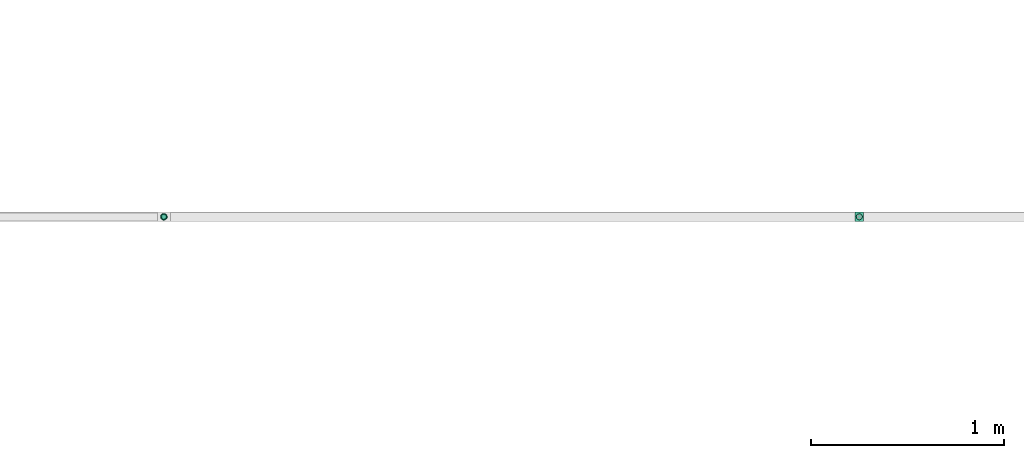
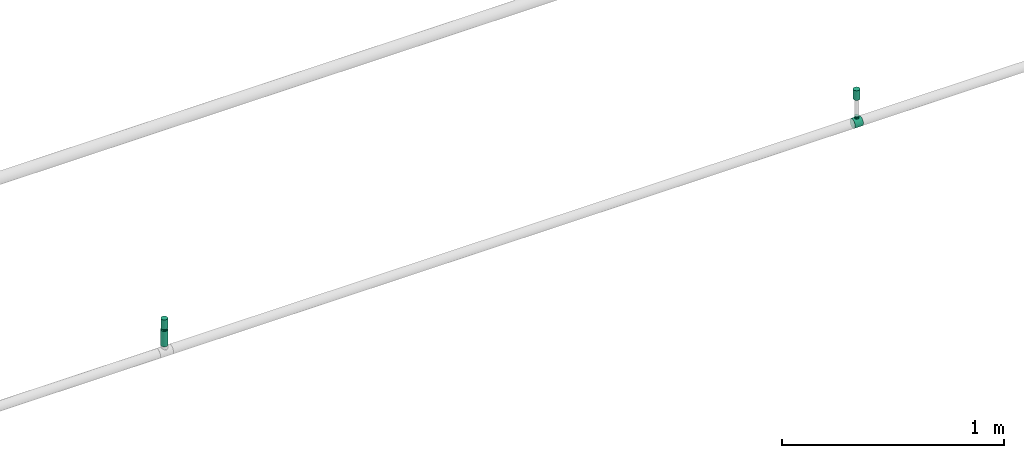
# One storey, part 10 of 14: 2 flow fittings, 2 flow terminals, 1 flow segment.
"""IFC2X3 building model written with IfcOpenShell, lengths in millimetres."""

from ifc_helpers import new_model, entity, si_unit, converted_unit, derived_unit, direction, frame, origin_with_axes, origin_2d_with_axis, place, context, subcontext, project, spatial, hollow_circle, extrude, open_shell, surface_model, source, transform, mapped, type_object, element, save


model = new_model("IFC2X3")

# Units and contexts
model_context = context("Model", 3, precision=0.01, world=frame((0.0, 4.29681676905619e-09, 0.0)), true_north=direction((4.01073788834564e-13, 1.0)))
plan_context = context("Plan", 3, precision=0.01, world=frame((0.0, 4.29681676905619e-09, 0.0)), true_north=direction((4.01073788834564e-13, 1.0)))
body_context = subcontext(model_context, "Body", "Model", "MODEL_VIEW")
ifc_project = project(units=[converted_unit("PLANEANGLEUNIT", "DEGREE", entity("IfcPositiveLengthMeasure", 0.0174532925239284), si_unit("PLANEANGLEUNIT", "RADIAN"), dimensions=[0, 0, 0, 0, 0, 0, 0]), si_unit("AREAUNIT", "SQUARE_METRE"), si_unit("LENGTHUNIT", "METRE", prefix="MILLI"), si_unit("MASSUNIT", "GRAM", prefix="KILO"), si_unit("POWERUNIT", "WATT"), si_unit("PRESSUREUNIT", "PASCAL"), si_unit("FORCEUNIT", "NEWTON", prefix="KILO"), si_unit("ELECTRICVOLTAGEUNIT", "VOLT"), si_unit("ELECTRICCURRENTUNIT", "AMPERE"), si_unit("THERMODYNAMICTEMPERATUREUNIT", "DEGREE_CELSIUS"), si_unit("TIMEUNIT", "SECOND"), si_unit("VOLUMEUNIT", "CUBIC_METRE"), derived_unit("LINEARVELOCITYUNIT", [(si_unit("LENGTHUNIT", "METRE"), 1), (si_unit("TIMEUNIT", "SECOND"), -1)]), derived_unit("VOLUMETRICFLOWRATEUNIT", [(si_unit("VOLUMEUNIT", "CUBIC_METRE"), 1), (si_unit("TIMEUNIT", "SECOND"), -1)]), derived_unit("THERMALTRANSMITTANCEUNIT", [(si_unit("POWERUNIT", "WATT"), 1), (si_unit("THERMODYNAMICTEMPERATUREUNIT", "KELVIN"), -1), (si_unit("AREAUNIT", "SQUARE_METRE"), -1)]), derived_unit("SOUNDPRESSUREUNIT", [(si_unit("PRESSUREUNIT", "PASCAL"), 1)])], contexts=[model_context, plan_context])

# Site, building, storey
site_placement = place(None, frame((0.0, -4.29681676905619e-09, 0.0), z_axis=(0.0, 0.0, 1.0), x_axis=(1.0, 0.0, 0.0)))
site = spatial("IfcSite", under=ifc_project, at=site_placement, CompositionType="ELEMENT")
building_placement = place(site_placement, frame((0.0, 4.29681676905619e-09, 0.0), z_axis=(0.0, 0.0, 1.0), x_axis=(1.0, 0.0, 0.0)))
building = spatial("IfcBuilding", under=site, at=building_placement, Name="mc-building", CompositionType="ELEMENT")
storey_placement = place(building_placement, frame((0.0, 0.0, 204000.0), z_axis=(0.0, 0.0, 1.0), x_axis=(1.0, 0.0, 0.0)))
storey = spatial("IfcBuildingStorey", under=building, at=storey_placement, Name="Nivå D", CompositionType="ELEMENT", Elevation=204000.0)

# Flow fittings
pipe_fitting_type_1 = type_object("IfcPipeFittingType", Name="magi_pipe_fe_reducer_centric_short_NOR", PredefinedType="TRANSITION")
shared_shape_1 = source(origin_with_axes(), body_context, "Body", "SurfaceModel", [
    surface_model("IfcShellBasedSurfaceModel", [(14.4, 5.35, -9.26647), (14.4, 0.0, -10.7), (14.4, 2.76936, -10.33541), (14.4, 10.33541, -2.76936), (14.4, 7.56604, -7.56604), (14.4, -5.35, -9.26647), (14.4, 9.26647, -5.35), (14.4, -9.26647, 5.35), (14.4, -2.76936, -10.33541), (14.4, -7.56604, -7.56604), (14.4, -10.33541, -2.76936), (14.4, -9.26647, -5.35), (14.4, 10.33541, 2.76936), (14.4, 10.7, 0.0), (14.4, 9.26647, 5.35), (14.4, 7.56604, 7.56604), (14.4, 2.76936, 10.33541), (14.4, 0.0, 10.7), (14.4, 5.35, 9.26647), (14.4, -10.33541, 2.76936), (14.4, -10.7, 0.0), (14.4, -7.56604, 7.56604), (14.4, -2.76936, 10.33541), (14.4, -5.35, 9.26647), (12.4, 0.0, 10.7), (12.4, 2.76936, 10.33541), (12.4, 5.35, 9.26647), (12.4, 7.56604, 7.56604), (12.4, 9.26647, 5.35), (12.4, 10.33541, 2.76936), (12.4, -10.33541, 2.76936), (12.4, 10.33541, -2.76936), (12.4, -2.76936, 10.33541), (12.4, -7.56604, 7.56604), (12.4, -5.35, 9.26647), (12.4, -9.26647, 5.35), (12.4, -10.33541, -2.76936), (12.4, -10.7, 0.0), (12.4, 2.76936, -10.33541), (12.4, 9.26647, -5.35), (12.4, 7.56604, -7.56604), (12.4, 5.35, -9.26647), (12.4, -7.56604, -7.56604), (12.4, -9.26647, -5.35), (12.4, -5.35, -9.26647), (12.4, 0.0, -10.7), (12.4, -2.76936, -10.33541), (12.4, 10.7, 0.0), (-2.0, 11.9501, 11.9501), (-2.0, 0.0, 16.9), (-2.0, 4.37404, 16.32415), (-2.0, 8.45, 14.63583), (-2.0, 14.63583, 8.45), (-2.0, 16.32415, 4.37404), (-2.0, -16.32415, 4.37404), (-2.0, -8.45, 14.63583), (-2.0, -14.63583, 8.45), (-2.0, -11.9501, 11.9501), (-2.0, -4.37404, 16.32415), (-2.0, -16.32415, -4.37404), (-2.0, -16.9, 0.0), (-2.0, -8.45, -14.63583), (-2.0, 16.32415, -4.37404), (-2.0, 11.9501, -11.9501), (-2.0, 14.63583, -8.45), (-2.0, 8.45, -14.63583), (-2.0, 4.37404, -16.32415), (-2.0, 0.0, -16.9), (-2.0, -11.9501, -11.9501), (-2.0, -14.63583, -8.45), (-2.0, -4.37404, -16.32415), (-2.0, 16.9, 0.0), (0.0, 4.37404, -16.32415), (0.0, 8.45, -14.63583), (0.0, 11.9501, -11.9501), (0.0, 0.0, -16.9), (0.0, 16.32415, -4.37404), (0.0, 16.32415, 4.37404), (0.0, 14.63583, -8.45), (0.0, -8.45, -14.63583), (0.0, -4.37404, -16.32415), (0.0, -11.9501, -11.9501), (0.0, -16.32415, -4.37404), (0.0, -14.63583, -8.45), (0.0, -16.32415, 4.37404), (0.0, 16.9, 0.0), (0.0, 14.63583, 8.45), (0.0, 11.9501, 11.9501), (0.0, 4.37404, 16.32415), (0.0, 8.45, 14.63583), (0.0, 0.0, 16.9), (0.0, -14.63583, 8.45), (0.0, -16.9, 0.0), (0.0, -8.45, 14.63583), (0.0, -11.9501, 11.9501), (0.0, -4.37404, 16.32415), (12.4, 9.3625, -2.31662), (0.0, 14.42505, -5.97505), (0.0, 15.66253, -2.98753), (12.4, -6.6875, -6.94985), (0.0, -13.18758, -8.96258), (0.0, 2.98753, -15.66253), (12.4, 0.0, -9.26647), (12.4, 6.6875, -6.94985), (0.0, 8.96258, -13.18758), (12.4, -9.3625, -2.31662), (0.0, -15.66253, -2.98753), (0.0, -14.42505, -5.97505), (0.0, 5.97505, -14.42505), (0.0, -2.98753, -15.66253), (0.0, -8.96258, -13.18758), (0.0, 13.18758, -8.96258), (12.4, 8.025, -4.63324), (12.4, -2.675, -9.26647), (12.4, 2.675, -9.26647), (0.0, -5.97505, -14.42505), (12.4, -8.025, -4.63324), (12.4, -9.3625, 2.31662), (0.0, -14.42505, 5.97505), (0.0, -15.66253, 2.98753), (12.4, 6.6875, 6.94985), (0.0, 13.18758, 8.96258), (0.0, -2.98753, 15.66253), (12.4, 0.0, 9.26647), (12.4, -6.6875, 6.94985), (0.0, -8.96258, 13.18758), (12.4, 9.3625, 2.31662), (0.0, 15.66253, 2.98753), (0.0, 14.42505, 5.97505), (0.0, -5.97505, 14.42505), (0.0, 2.98753, 15.66253), (0.0, 8.96258, 13.18758), (0.0, -13.18758, 8.96258), (12.4, -8.025, 4.63324), (12.4, 2.675, 9.26647), (12.4, -2.675, 9.26647), (0.0, 5.97505, 14.42505), (12.4, 8.025, 4.63324)], [open_shell([[[0, 1, 2]], [[3, 0, 4]], [[5, 0, 3]], [[3, 4, 6]], [[7, 5, 3]], [[1, 5, 8]], [[1, 0, 5]], [[9, 10, 11]], [[10, 9, 5]], [[5, 7, 10]], [[12, 3, 13]], [[12, 14, 15]], [[3, 15, 7]], [[16, 17, 15]], [[16, 15, 18]], [[7, 15, 17]], [[10, 19, 20]], [[7, 19, 10]], [[21, 22, 23]], [[22, 21, 7]], [[17, 22, 7]], [[3, 12, 15]], [[24, 25, 26]], [[24, 26, 27]], [[27, 28, 29]], [[24, 27, 30]], [[31, 30, 27]], [[32, 33, 34]], [[33, 32, 30]], [[33, 30, 35]], [[32, 24, 30]], [[30, 36, 37]], [[31, 27, 29]], [[36, 30, 31]], [[38, 31, 39]], [[40, 41, 38]], [[40, 38, 39]], [[36, 31, 38]], [[36, 42, 43]], [[42, 36, 44]], [[44, 45, 46]], [[44, 36, 38]], [[38, 45, 44]], [[31, 29, 47]], [[36, 10, 37]], [[43, 11, 36]], [[5, 42, 44]], [[43, 42, 9]], [[8, 44, 46]], [[36, 11, 10]], [[10, 20, 37]], [[8, 5, 44]], [[9, 42, 5]], [[9, 11, 43]], [[1, 8, 46]], [[46, 45, 1]], [[38, 2, 45]], [[41, 0, 38]], [[6, 40, 39]], [[41, 40, 4]], [[3, 39, 31]], [[41, 4, 0]], [[0, 2, 38]], [[13, 3, 31]], [[6, 39, 3]], [[6, 4, 40]], [[47, 13, 31]], [[45, 2, 1]], [[29, 12, 47]], [[28, 14, 29]], [[18, 27, 26]], [[28, 27, 15]], [[16, 26, 25]], [[29, 14, 12]], [[12, 13, 47]], [[16, 18, 26]], [[15, 27, 18]], [[15, 14, 28]], [[17, 16, 25]], [[25, 24, 17]], [[32, 22, 24]], [[34, 23, 32]], [[7, 33, 35]], [[34, 33, 21]], [[19, 35, 30]], [[34, 21, 23]], [[23, 22, 32]], [[20, 19, 30]], [[7, 35, 19]], [[7, 21, 33]], [[37, 20, 30]], [[24, 22, 17]], [[48, 49, 50]], [[48, 50, 51]], [[48, 52, 53]], [[48, 53, 49]], [[49, 53, 54]], [[55, 56, 57]], [[55, 58, 49]], [[56, 55, 49]], [[49, 54, 56]], [[54, 59, 60]], [[54, 53, 61]], [[53, 62, 63]], [[63, 62, 64]], [[63, 65, 66]], [[61, 53, 63]], [[67, 63, 66]], [[59, 68, 69]], [[68, 59, 61]], [[61, 67, 70]], [[59, 54, 61]], [[63, 67, 61]], [[53, 71, 62]], [[72, 73, 74]], [[75, 72, 74]], [[74, 76, 77]], [[76, 74, 78]], [[74, 77, 79]], [[75, 79, 80]], [[75, 74, 79]], [[81, 82, 83]], [[82, 81, 79]], [[79, 84, 82]], [[77, 76, 85]], [[77, 86, 87]], [[77, 87, 88]], [[88, 84, 79]], [[88, 87, 89]], [[84, 88, 90]], [[90, 91, 84]], [[92, 82, 84]], [[91, 93, 94]], [[91, 90, 93]], [[93, 90, 95]], [[79, 77, 88]], [[59, 82, 60]], [[69, 83, 59]], [[79, 68, 61]], [[69, 68, 81]], [[80, 61, 70]], [[59, 83, 82]], [[82, 92, 60]], [[80, 79, 61]], [[81, 68, 79]], [[81, 83, 69]], [[75, 80, 70]], [[70, 67, 75]], [[66, 72, 67]], [[65, 73, 66]], [[78, 63, 64]], [[65, 63, 74]], [[76, 64, 62]], [[65, 74, 73]], [[73, 72, 66]], [[85, 76, 62]], [[78, 64, 76]], [[78, 74, 63]], [[71, 85, 62]], [[67, 72, 75]], [[53, 77, 71]], [[52, 86, 53]], [[89, 48, 51]], [[52, 48, 87]], [[88, 51, 50]], [[53, 86, 77]], [[77, 85, 71]], [[88, 89, 51]], [[87, 48, 89]], [[87, 86, 52]], [[90, 88, 50]], [[50, 49, 90]], [[58, 95, 49]], [[55, 93, 58]], [[91, 57, 56]], [[55, 57, 94]], [[84, 56, 54]], [[55, 94, 93]], [[93, 95, 58]], [[92, 84, 54]], [[91, 56, 84]], [[91, 94, 57]], [[60, 92, 54]], [[49, 95, 90]], [[26, 34, 47]], [[47, 34, 44]], [[44, 41, 47]], [[44, 34, 37]], [[90, 87, 92]], [[92, 94, 90]], [[87, 74, 92]], [[75, 92, 74]], [[81, 92, 75]], [[74, 87, 85]], [[96, 97, 98]], [[81, 99, 100]], [[101, 102, 75]], [[98, 85, 47]], [[74, 103, 104]], [[104, 103, 41]], [[105, 106, 107]], [[41, 108, 104]], [[102, 109, 75]], [[110, 99, 81]], [[47, 96, 98]], [[103, 111, 112]], [[109, 102, 113]], [[37, 92, 106]], [[102, 101, 114]], [[110, 115, 44]], [[96, 112, 97]], [[107, 116, 105]], [[37, 106, 105]], [[113, 115, 109]], [[44, 115, 113]], [[116, 107, 100]], [[108, 41, 114]], [[111, 103, 74]], [[111, 97, 112]], [[99, 110, 44]], [[116, 100, 99]], [[101, 108, 114]], [[117, 118, 119]], [[87, 120, 121]], [[122, 123, 90]], [[119, 92, 37]], [[94, 124, 125]], [[125, 124, 34]], [[126, 127, 128]], [[34, 129, 125]], [[123, 130, 90]], [[131, 120, 87]], [[37, 117, 119]], [[124, 132, 133]], [[130, 123, 134]], [[47, 85, 127]], [[123, 122, 135]], [[131, 136, 26]], [[117, 133, 118]], [[128, 137, 126]], [[47, 127, 126]], [[134, 136, 130]], [[26, 136, 134]], [[137, 128, 121]], [[129, 34, 135]], [[132, 124, 94]], [[132, 118, 133]], [[120, 131, 26]], [[137, 121, 120]], [[122, 129, 135]]])]),
])
flow_fitting_1_placement = place(storey_placement, frame((601000.0, 696802.46783, 6260.64799999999), z_axis=(0.0, 1.0, 0.0), x_axis=(0.0, 0.0, 1.0)))
element("IfcFlowFitting", 1, at=flow_fitting_1_placement, inside=storey, type_object=pipe_fitting_type_1, Name="magi_pipe_fe_reducer_centric_short_NOR", context=body_context, shape_type="MappedRepresentation", body=[
    mapped(shared_shape_1, transform((0.0, 0.0, 0.0), scale=1.0)),
])
pipe_fitting_type_2 = type_object("IfcPipeFittingType", Name="magi_pipe_fe_tee_centric_90_NOR", PredefinedType="JUNCTION")
shared_shape_2 = source(origin_with_axes(), body_context, "Body", "SurfaceModel", [
    surface_model("IfcShellBasedSurfaceModel", [(-21.4, 0.0, -24.2), (-21.4, -6.26342, -23.37541), (-21.4, 6.26342, -23.37541), (-21.4, 12.1, -20.95781), (-21.4, 20.95781, -12.1), (-21.4, -24.2, 0.0), (-21.4, 17.11198, -17.11198), (-21.4, -23.37541, 6.26342), (-21.4, -12.1, -20.95781), (-21.4, -17.11198, -17.11198), (-21.4, -23.37541, -6.26342), (-21.4, -20.95781, -12.1), (-21.4, 23.37541, -6.26342), (-21.4, 20.95781, 12.1), (-21.4, 23.37541, 6.26342), (-21.4, 24.2, 0.0), (-21.4, 12.1, 20.95781), (-21.4, -17.11198, 17.11198), (-21.4, 17.11198, 17.11198), (-21.4, 6.26342, 23.37541), (-21.4, -20.95781, 12.1), (-21.4, -6.26342, 23.37541), (-21.4, 0.0, 24.2), (-21.4, -12.1, 20.95781), (21.4, 6.26342, -23.37541), (21.4, -6.26342, -23.37541), (21.4, 0.0, -24.2), (21.4, 17.11198, -17.11198), (21.4, 12.1, -20.95781), (21.4, -23.37541, -6.26342), (21.4, 20.95781, -12.1), (21.4, 23.37541, -6.26342), (21.4, -17.11198, -17.11198), (21.4, -12.1, -20.95781), (21.4, -20.95781, -12.1), (21.4, -24.2, 0.0), (21.4, 24.2, 0.0), (21.4, 23.37541, 6.26342), (21.4, 20.95781, 12.1), (21.4, -23.37541, 6.26342), (21.4, -17.11198, 17.11198), (21.4, 12.1, 20.95781), (21.4, 17.11198, 17.11198), (21.4, 6.26342, 23.37541), (21.4, -20.95781, 12.1), (21.4, -12.1, 20.95781), (21.4, 0.0, 24.2), (21.4, -6.26342, 23.37541), (21.4, -23.7877, 3.13171), (10.04208, -23.91638, 3.69412), (10.7, -24.2, 0.0), (8.18481, -23.19787, 6.89194), (1.87869, -21.78714, 10.53378), (21.4, -22.16661, 9.18171), (5.37451, -22.36147, 9.25228), (-5.37543, -22.36169, 9.25174), (-21.4, -22.16661, 9.18171), (-10.04239, -23.91651, 3.69329), (-21.4, -23.7877, 3.13171), (-10.7, -24.2, 0.0), (-8.18762, -23.19886, 6.8886), (-1.88166, -21.7874, 10.53325), (1.87869, -21.78714, -10.53378), (-21.4, -23.7877, -3.13171), (-10.04239, -23.91651, -3.69329), (5.37451, -22.36147, -9.25228), (8.18481, -23.19787, -6.89194), (21.4, -22.16661, -9.18171), (21.4, -23.7877, -3.13171), (10.04208, -23.91638, -3.69412), (-1.88166, -21.7874, -10.53325), (-5.37543, -22.36169, -9.25174), (-8.18762, -23.19886, -6.8886), (-21.4, -22.16661, -9.18171), (0.0, -36.3, -10.7), (2.76936, -36.3, -10.33541), (5.35, -36.3, -9.26647), (7.56604, -36.3, -7.56604), (10.33541, -36.3, 2.76936), (9.26647, -36.3, -5.35), (-7.56604, -36.3, -7.56604), (2.76936, -36.3, 10.33541), (-10.7, -36.3, 0.0), (-5.35, -36.3, -9.26647), (-2.76936, -36.3, -10.33541), (-9.26647, -36.3, -5.35), (-10.33541, -36.3, -2.76936), (10.7, -36.3, 0.0), (10.33541, -36.3, -2.76936), (9.26647, -36.3, 5.35), (5.35, -36.3, 9.26647), (7.56604, -36.3, 7.56604), (0.0, -36.3, 10.7), (-10.33541, -36.3, 2.76936), (-7.56604, -36.3, 7.56604), (-9.26647, -36.3, 5.35), (-2.76936, -36.3, 10.33541), (-5.35, -36.3, 9.26647)], [open_shell([[[0, 1, 2]], [[3, 2, 4]], [[4, 2, 5]], [[6, 3, 4]], [[4, 5, 7]], [[8, 9, 1]], [[10, 1, 9]], [[11, 10, 9]], [[5, 1, 10]], [[5, 2, 1]], [[7, 12, 4]], [[13, 14, 15]], [[13, 15, 7]], [[16, 13, 17]], [[18, 13, 16]], [[19, 16, 17]], [[20, 17, 7]], [[17, 13, 7]], [[21, 22, 23]], [[17, 23, 22]], [[17, 22, 19]], [[12, 7, 15]], [[24, 25, 26]], [[27, 24, 28]], [[29, 24, 30]], [[30, 24, 27]], [[29, 30, 31]], [[25, 32, 33]], [[32, 25, 34]], [[24, 34, 25]], [[24, 29, 34]], [[31, 35, 29]], [[31, 36, 35]], [[36, 37, 38]], [[39, 36, 38]], [[40, 38, 41]], [[41, 38, 42]], [[40, 41, 43]], [[39, 40, 44]], [[39, 38, 40]], [[45, 46, 47]], [[46, 45, 40]], [[43, 46, 40]], [[36, 39, 35]], [[48, 39, 49]], [[50, 35, 48]], [[39, 51, 49]], [[44, 40, 52]], [[50, 48, 49]], [[39, 53, 51]], [[52, 54, 44]], [[40, 17, 52]], [[54, 53, 44]], [[55, 20, 56]], [[57, 58, 59]], [[5, 59, 58]], [[57, 60, 7]], [[55, 61, 20]], [[51, 53, 54]], [[7, 60, 56]], [[20, 61, 17]], [[56, 60, 55]], [[61, 52, 17]], [[57, 7, 58]], [[40, 23, 17]], [[22, 47, 46]], [[21, 45, 47]], [[19, 46, 43]], [[38, 37, 14]], [[18, 41, 42]], [[13, 42, 38]], [[43, 41, 16]], [[15, 37, 36]], [[23, 45, 21]], [[21, 47, 22]], [[19, 22, 46]], [[43, 16, 19]], [[16, 41, 18]], [[13, 18, 42]], [[14, 13, 38]], [[37, 15, 14]], [[45, 23, 40]], [[4, 31, 30]], [[12, 36, 31]], [[6, 30, 27]], [[26, 25, 1]], [[2, 28, 24]], [[0, 24, 26]], [[27, 28, 3]], [[8, 25, 33]], [[15, 36, 12]], [[12, 31, 4]], [[6, 4, 30]], [[27, 3, 6]], [[3, 28, 2]], [[0, 2, 24]], [[1, 0, 26]], [[25, 8, 1]], [[33, 9, 8]], [[32, 34, 62]], [[59, 63, 64]], [[65, 62, 34]], [[29, 66, 67]], [[32, 62, 9]], [[35, 50, 68]], [[69, 66, 29]], [[69, 68, 50]], [[65, 34, 67]], [[66, 65, 67]], [[70, 71, 11]], [[72, 73, 71]], [[11, 9, 70]], [[71, 73, 11]], [[70, 9, 62]], [[72, 64, 10]], [[69, 29, 68]], [[64, 63, 10]], [[63, 59, 5]], [[10, 73, 72]], [[32, 9, 33]], [[74, 75, 76]], [[74, 76, 77]], [[78, 77, 79]], [[74, 77, 80]], [[81, 82, 77]], [[74, 83, 84]], [[74, 80, 83]], [[85, 82, 86]], [[82, 85, 80]], [[77, 82, 80]], [[87, 79, 88]], [[77, 78, 81]], [[81, 78, 89]], [[90, 81, 89]], [[90, 89, 91]], [[92, 82, 81]], [[93, 94, 95]], [[94, 93, 92]], [[94, 96, 97]], [[96, 94, 92]], [[82, 92, 93]], [[79, 87, 78]], [[59, 82, 93]], [[57, 95, 94]], [[93, 95, 59]], [[94, 97, 57]], [[59, 95, 57]], [[57, 97, 60]], [[61, 55, 54]], [[60, 92, 55]], [[96, 92, 60]], [[96, 60, 97]], [[81, 51, 92]], [[90, 51, 81]], [[49, 91, 89]], [[90, 91, 49]], [[50, 89, 78]], [[92, 51, 54]], [[52, 61, 54]], [[89, 50, 49]], [[49, 51, 90]], [[78, 87, 50]], [[54, 55, 92]], [[50, 87, 88]], [[69, 79, 77]], [[88, 79, 50]], [[69, 77, 76]], [[50, 79, 69]], [[69, 76, 66]], [[62, 65, 70]], [[66, 74, 65]], [[75, 74, 66]], [[75, 66, 76]], [[72, 74, 84]], [[83, 72, 84]], [[64, 80, 85]], [[83, 80, 64]], [[59, 85, 86]], [[74, 72, 71]], [[70, 65, 71]], [[85, 59, 64]], [[64, 72, 83]], [[86, 82, 59]], [[71, 65, 74]]])]),
])
flow_fitting_2_placement = place(storey_placement, frame((604600.0, 696802.46783, 6140.0), z_axis=(0.0, -1.0, 0.0), x_axis=(-1.0, 0.0, 0.0)))
element("IfcFlowFitting", 2, at=flow_fitting_2_placement, inside=storey, type_object=pipe_fitting_type_2, Name="magi_pipe_fe_tee_centric_90_NOR", context=body_context, shape_type="MappedRepresentation", body=[
    mapped(shared_shape_2, transform((0.0, 0.0, 0.0), scale=1.0)),
])

# Flow segment
pipe_segment_type = type_object("IfcPipeSegmentType", Name="Stålrør normaltykke", PredefinedType="RIGIDSEGMENT")
shared_shape_3 = source(origin_with_axes(), body_context, "Body", "SweptSolid", [
    extrude(hollow_circle(Radius=16.9, WallThickness=2.0, at=origin_2d_with_axis()), frame((0.0, 0.0, 0.0), z_axis=(1.0, 0.0, 0.0), x_axis=(0.0, 1.0, 0.0)), (0.0, 0.0, 1.0), 84.5),
])
flow_segment_placement = place(storey_placement, frame((601000.0, 696802.46783, 6176.29999999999), z_axis=(0.0, 1.0, 0.0), x_axis=(0.0, 0.0, 1.0)))
element("IfcFlowSegment", 3, at=flow_segment_placement, inside=storey, type_object=pipe_segment_type, Name="Stålrør normaltykke", context=body_context, shape_type="MappedRepresentation", body=[
    mapped(shared_shape_3, transform((0.0, 0.0, 0.0), scale=1.0)),
])

# Flow terminals
fire_suppression_terminal_type = type_object("IfcFireSuppressionTerminalType", Name="SP-15-K80-68DGR-STD-STÅENDE", PredefinedType="NOTDEFINED")
shared_shape_4 = source(origin_with_axes(), body_context, "Body", "SurfaceModel", [
    surface_model("IfcShellBasedSurfaceModel", [(4.1411, -15.45481, 53.0), (8.0, -13.85641, 53.0), (11.31371, -11.31371, 53.0), (-8.0, -13.85641, 53.0), (15.45481, -4.1411, 53.0), (16.0, 0.0, 53.0), (13.85641, -8.0, 53.0), (0.0, -16.0, 53.0), (-4.1411, -15.45481, 53.0), (-13.85641, -8.0, 53.0), (-11.31371, -11.31371, 53.0), (-15.45481, -4.1411, 53.0), (15.45481, 4.1411, 53.0), (13.85641, 8.0, 53.0), (11.31371, 11.31371, 53.0), (-4.1411, 15.45481, 53.0), (8.0, 13.85641, 53.0), (4.1411, 15.45481, 53.0), (0.0, 16.0, 53.0), (-13.85641, 8.0, 53.0), (-15.45481, 4.1411, 53.0), (-16.0, 0.0, 53.0), (-11.31371, 11.31371, 53.0), (-8.0, 13.85641, 53.0), (0.0, 16.0, 0.0), (4.1411, 15.45481, 0.0), (8.0, 13.85641, 0.0), (-4.1411, 15.45481, 0.0), (11.31371, 11.31371, 0.0), (13.85641, 8.0, 0.0), (15.45481, 4.1411, 0.0), (-15.45481, -4.1411, 0.0), (-11.31371, 11.31371, 0.0), (-8.0, 13.85641, 0.0), (-13.85641, 8.0, 0.0), (-15.45481, 4.1411, 0.0), (-16.0, 0.0, 0.0), (4.1411, -15.45481, 0.0), (16.0, 0.0, 0.0), (15.45481, -4.1411, 0.0), (13.85641, -8.0, 0.0), (11.31371, -11.31371, 0.0), (8.0, -13.85641, 0.0), (-8.0, -13.85641, 0.0), (-13.85641, -8.0, 0.0), (-11.31371, -11.31371, 0.0), (0.0, -16.0, 0.0), (-4.1411, -15.45481, 0.0)], [open_shell([[[0, 1, 2]], [[3, 0, 2]], [[4, 5, 2]], [[4, 2, 6]], [[3, 2, 5]], [[7, 3, 8]], [[7, 0, 3]], [[3, 9, 10]], [[9, 3, 11]], [[5, 11, 3]], [[5, 12, 11]], [[12, 13, 14]], [[15, 12, 14]], [[16, 17, 18]], [[14, 16, 15]], [[18, 15, 16]], [[11, 19, 20]], [[21, 11, 20]], [[22, 15, 23]], [[15, 22, 19]], [[19, 11, 15]], [[11, 12, 15]], [[24, 25, 26]], [[27, 24, 26]], [[28, 29, 30]], [[27, 26, 28]], [[27, 28, 31]], [[27, 32, 33]], [[32, 27, 34]], [[34, 31, 35]], [[31, 34, 27]], [[35, 31, 36]], [[28, 30, 31]], [[37, 38, 39]], [[37, 39, 40]], [[41, 42, 37]], [[41, 37, 40]], [[38, 37, 43]], [[44, 43, 45]], [[43, 44, 31]], [[43, 46, 47]], [[43, 31, 38]], [[37, 46, 43]], [[38, 31, 30]], [[11, 31, 44]], [[45, 9, 44]], [[3, 43, 47]], [[45, 43, 10]], [[8, 47, 46]], [[31, 21, 36]], [[31, 11, 21]], [[44, 9, 11]], [[45, 10, 9]], [[3, 10, 43]], [[47, 8, 3]], [[46, 7, 8]], [[0, 37, 42]], [[41, 1, 42]], [[6, 40, 39]], [[41, 40, 2]], [[4, 39, 38]], [[37, 0, 7]], [[42, 1, 0]], [[41, 2, 1]], [[40, 6, 2]], [[4, 6, 39]], [[38, 5, 4]], [[37, 7, 46]], [[12, 38, 30]], [[13, 30, 29]], [[16, 26, 25]], [[17, 25, 24]], [[30, 13, 12]], [[12, 5, 38]], [[28, 14, 13]], [[28, 26, 14]], [[14, 26, 16]], [[25, 17, 16]], [[28, 13, 29]], [[24, 18, 17]], [[15, 27, 33]], [[32, 23, 33]], [[19, 34, 35]], [[32, 34, 22]], [[20, 35, 36]], [[27, 15, 18]], [[33, 23, 15]], [[32, 22, 23]], [[34, 19, 22]], [[20, 19, 35]], [[36, 21, 20]], [[27, 18, 24]]])]),
])
for number, where, z_axis, x_axis in (
    (4, (604600.0, 696802.46783, 6270.0), (0.0, 0.0, 1.0), (1.0, 0.0, 0.0)),
    (5, (601000.0, 696802.46783, 6270.0), (0.0, 0.0, 1.0), (1.0, 0.0, 0.0)),
):
    element("IfcFlowTerminal", number, at=place(storey_placement, frame(where, z_axis=z_axis, x_axis=x_axis)), inside=storey, type_object=fire_suppression_terminal_type, Name="SP-15-K80-68DGR-STD-STÅENDE", context=body_context, shape_type="MappedRepresentation", body=[
        mapped(shared_shape_4, transform((0.0, 0.0, 0.0), scale=1.0)),
    ])

save(model, "model.ifc")
